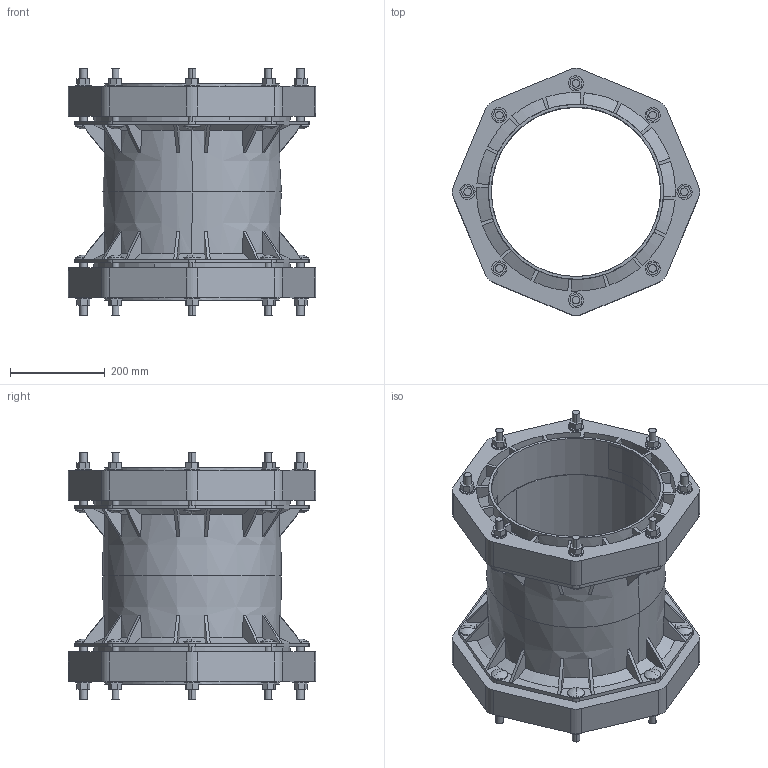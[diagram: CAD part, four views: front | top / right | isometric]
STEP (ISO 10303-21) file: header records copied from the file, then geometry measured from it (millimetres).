
FILE_DESCRIPTION((''),'2;1');
FILE_NAME('BIM_13198_11_ASM','2019-04-09T',('MReader'),(''),'CREO PARAMETRIC BY PTC INC, 2016130','CREO PARAMETRIC BY PTC INC, 2016130','');
FILE_SCHEMA(('CONFIG_CONTROL_DESIGN'));
Length unit declared in the file: millimetre
Products named in the file (3): BIM_13186; BIM_12295; BIM_13198_11_ASM
Assembly tree (3 placements, depth 2):
  BIM_13198_11_ASM
    BIM_13186
    BIM_12295  x2
Bounding box: 522.38 x 522.38 x 524 mm (x, y, z)
Volume: 16775547.6 mm3; surface area: 2130846.1 mm2
Topology: 3 solids, 3 shells, 628 faces, 1680 edges, 1094 vertices
Faces by surface type: plane 346, cylinder 174, cone 76, sphere 32
Entity records: 14303 total; most frequent: CARTESIAN_POINT 2772, DIRECTION 2416, ORIENTED_EDGE 2376, EDGE_CURVE 1188, AXIS2_PLACEMENT_3D 861, VERTEX_POINT 786, VECTOR 694, LINE 694
